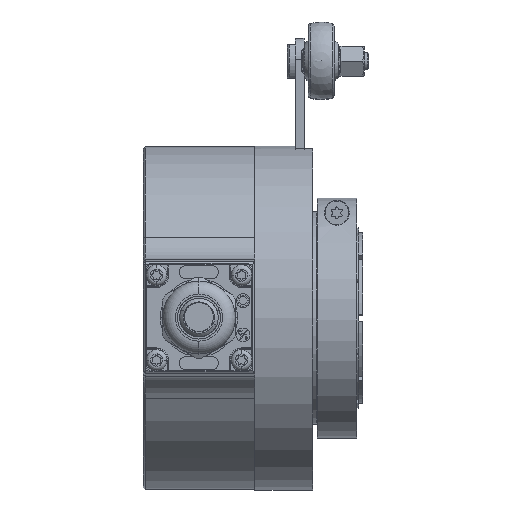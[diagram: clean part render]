
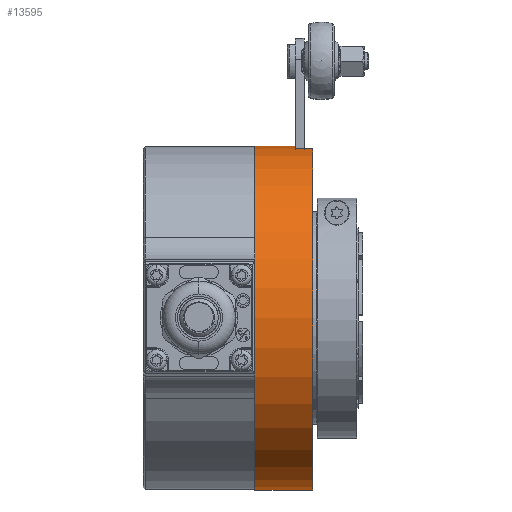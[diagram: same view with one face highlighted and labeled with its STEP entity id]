
A CAD part, top view. The second image highlights one B-rep face of the part: STEP entity #13595.
In plain terms, the highlighted cylindrical face has radius 40.075 mm (diameter 80.15 mm), a partial arc.
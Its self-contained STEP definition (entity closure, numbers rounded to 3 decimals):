
#793 = VECTOR ( 'NONE', #33262, 1000. ) ;
#841 = EDGE_CURVE ( 'NONE', #18419, #27137, #31123, .T. ) ;
#1035 = ORIENTED_EDGE ( 'NONE', *, *, #30280, .T. ) ;
#1317 = DIRECTION ( 'NONE',  ( 0., 1., 0. ) ) ;
#1483 = VECTOR ( 'NONE', #33714, 1000. ) ;
#2039 = DIRECTION ( 'NONE',  ( -1., 0., 0. ) ) ;
#2231 = EDGE_LOOP ( 'NONE', ( #17171, #33053, #25632, #1035, #18946, #22963 ) ) ;
#2390 = CARTESIAN_POINT ( 'NONE',  ( -12.775, 0., 0. ) ) ;
#2744 = FACE_OUTER_BOUND ( 'NONE', #2231, .T. ) ;
#2878 = VERTEX_POINT ( 'NONE', #28134 ) ;
#2904 = DIRECTION ( 'NONE',  ( 0., 1., 0. ) ) ;
#3925 = CARTESIAN_POINT ( 'NONE',  ( 0., 0., 0. ) ) ;
#4336 = CARTESIAN_POINT ( 'NONE',  ( 9.5, 39.468, 6.95 ) ) ;
#4814 = CARTESIAN_POINT ( 'NONE',  ( 9.5, 0., 0. ) ) ;
#4983 = AXIS2_PLACEMENT_3D ( 'NONE', #2390, #28951, #2904 ) ;
#6343 = DIRECTION ( 'NONE',  ( -1., 0., 0. ) ) ;
#7345 = CIRCLE ( 'NONE', #30460, 40.075 ) ;
#7351 = CARTESIAN_POINT ( 'NONE',  ( 13.5, -40.075, 0. ) ) ;
#7390 = VECTOR ( 'NONE', #20822, 1000. ) ;
#8391 = DIRECTION ( 'NONE',  ( 0., 1., 0. ) ) ;
#8854 = EDGE_CURVE ( 'NONE', #2878, #23511, #7345, .T. ) ;
#10694 = DIRECTION ( 'NONE',  ( 0., 1., 0. ) ) ;
#13448 = CIRCLE ( 'NONE', #15668, 40.075 ) ;
#13595 = ADVANCED_FACE ( 'NONE', ( #2744 ), #31012, .T. ) ;
#15476 = LINE ( 'NONE', #25974, #7390 ) ;
#15668 = AXIS2_PLACEMENT_3D ( 'NONE', #26809, #32159, #8391 ) ;
#15869 = CIRCLE ( 'NONE', #32916, 40.075 ) ;
#17171 = ORIENTED_EDGE ( 'NONE', *, *, #19440, .F. ) ;
#18419 = VERTEX_POINT ( 'NONE', #33932 ) ;
#18818 = EDGE_CURVE ( 'NONE', #25854, #23511, #15476, .T. ) ;
#18946 = ORIENTED_EDGE ( 'NONE', *, *, #18818, .T. ) ;
#18997 = EDGE_CURVE ( 'NONE', #21780, #18419, #13448, .T. ) ;
#19440 = EDGE_CURVE ( 'NONE', #21780, #2878, #25852, .T. ) ;
#20822 = DIRECTION ( 'NONE',  ( -1., 0., 0. ) ) ;
#21780 = VERTEX_POINT ( 'NONE', #7351 ) ;
#22392 = CARTESIAN_POINT ( 'NONE',  ( 0., 40.075, 0. ) ) ;
#22963 = ORIENTED_EDGE ( 'NONE', *, *, #8854, .F. ) ;
#23511 = VERTEX_POINT ( 'NONE', #22392 ) ;
#25632 = ORIENTED_EDGE ( 'NONE', *, *, #841, .T. ) ;
#25852 = LINE ( 'NONE', #30503, #793 ) ;
#25854 = VERTEX_POINT ( 'NONE', #33270 ) ;
#25974 = CARTESIAN_POINT ( 'NONE',  ( -12.775, 40.075, 0. ) ) ;
#26809 = CARTESIAN_POINT ( 'NONE',  ( 13.5, 0., 0. ) ) ;
#27137 = VERTEX_POINT ( 'NONE', #4336 ) ;
#28034 = CARTESIAN_POINT ( 'NONE',  ( -12.775, 39.468, 6.95 ) ) ;
#28134 = CARTESIAN_POINT ( 'NONE',  ( 0., -40.075, 0. ) ) ;
#28951 = DIRECTION ( 'NONE',  ( -1., 0., 0. ) ) ;
#30280 = EDGE_CURVE ( 'NONE', #27137, #25854, #15869, .T. ) ;
#30460 = AXIS2_PLACEMENT_3D ( 'NONE', #3925, #6343, #1317 ) ;
#30503 = CARTESIAN_POINT ( 'NONE',  ( -12.775, -40.075, 0. ) ) ;
#31012 = CYLINDRICAL_SURFACE ( 'NONE', #4983, 40.075 ) ;
#31123 = LINE ( 'NONE', #28034, #1483 ) ;
#32159 = DIRECTION ( 'NONE',  ( -1., 0., 0. ) ) ;
#32916 = AXIS2_PLACEMENT_3D ( 'NONE', #4814, #2039, #10694 ) ;
#33053 = ORIENTED_EDGE ( 'NONE', *, *, #18997, .T. ) ;
#33262 = DIRECTION ( 'NONE',  ( -1., 0., 0. ) ) ;
#33270 = CARTESIAN_POINT ( 'NONE',  ( 9.5, 40.075, 0. ) ) ;
#33714 = DIRECTION ( 'NONE',  ( -1., 0., 0. ) ) ;
#33932 = CARTESIAN_POINT ( 'NONE',  ( 13.5, 39.468, 6.95 ) ) ;
